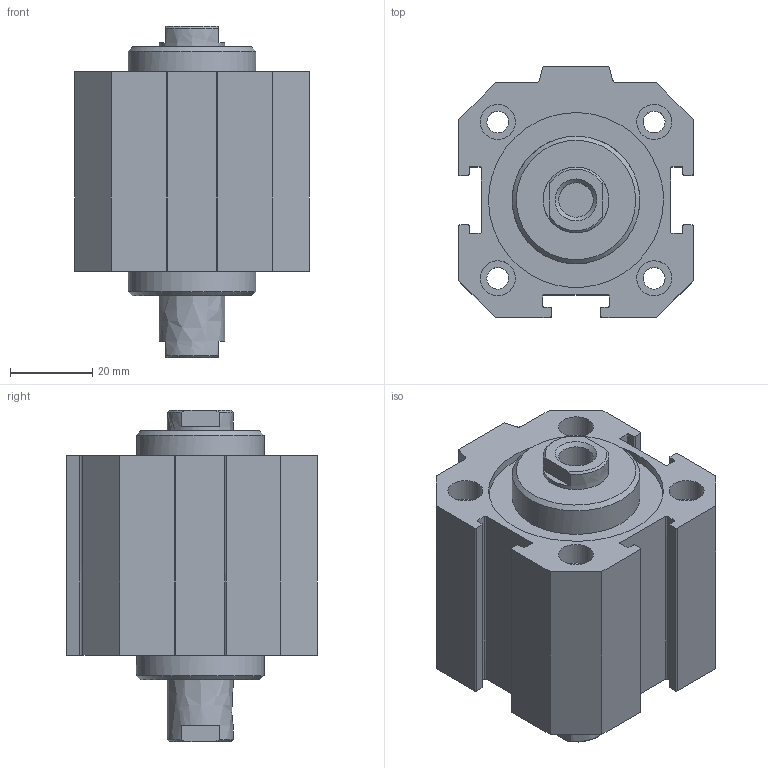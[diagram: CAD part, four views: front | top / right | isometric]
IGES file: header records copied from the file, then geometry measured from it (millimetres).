
Global section: file name: 1514_40_0010; native system: Autodesk Inventor 2014; preprocessor: unknown; author: A. Manieri; date: 20160824.120158; units: millimetre
Bounding box: 57 x 61 x 80.5 mm (x, y, z)
Volume: 132792.5 mm3; surface area: 39871.4 mm2
Topology: 2 solids, 2 shells, 130 faces, 339 edges, 233 vertices
Faces by surface type: bspline 130
